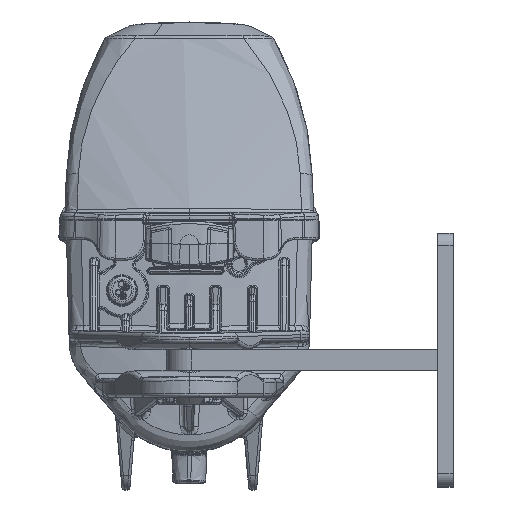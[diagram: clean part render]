
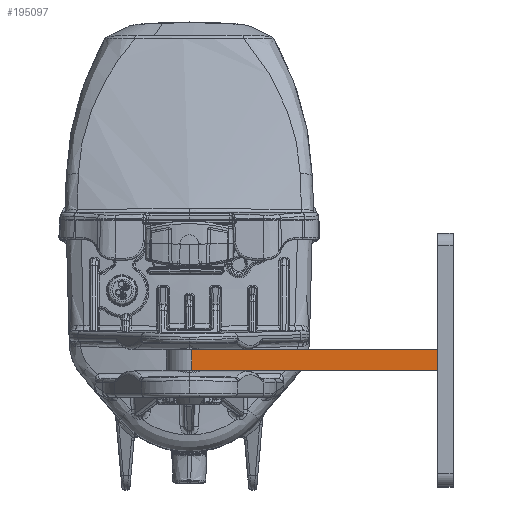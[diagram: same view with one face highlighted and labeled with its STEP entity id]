
A CAD part, top view. The second image highlights one B-rep face of the part: STEP entity #195097.
In plain terms, the highlighted planar face has unit normal (0, 0, 1) as drawn and (1, 0, 0) by its records, which use the part's own axes.
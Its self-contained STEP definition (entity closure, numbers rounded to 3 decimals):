
#4614 = EDGE_CURVE ( 'NONE', #79789, #49676, #37850, .T. ) ;
#5491 = DIRECTION ( 'NONE',  ( -1., 0., 0. ) ) ;
#12067 = CARTESIAN_POINT ( 'NONE',  ( 15., -4., 1. ) ) ;
#13390 = ORIENTED_EDGE ( 'NONE', *, *, #65733, .F. ) ;
#23350 = DIRECTION ( 'NONE',  ( 0., 0., 1. ) ) ;
#25472 = VERTEX_POINT ( 'NONE', #151055 ) ;
#29676 = VERTEX_POINT ( 'NONE', #105181 ) ;
#30802 = ORIENTED_EDGE ( 'NONE', *, *, #4614, .F. ) ;
#30953 = LINE ( 'NONE', #150463, #71756 ) ;
#37850 = LINE ( 'NONE', #69686, #153521 ) ;
#42947 = LINE ( 'NONE', #12067, #140559 ) ;
#49676 = VERTEX_POINT ( 'NONE', #156558 ) ;
#53264 = EDGE_CURVE ( 'NONE', #29676, #25472, #30953, .T. ) ;
#57574 = VECTOR ( 'NONE', #160660, 1000. ) ;
#65733 = EDGE_CURVE ( 'NONE', #25472, #79789, #71019, .T. ) ;
#68033 = EDGE_CURVE ( 'NONE', #49676, #29676, #42947, .T. ) ;
#69686 = CARTESIAN_POINT ( 'NONE',  ( 15., 4., 1. ) ) ;
#69839 = DIRECTION ( 'NONE',  ( 0., -1., 0. ) ) ;
#71019 = LINE ( 'NONE', #113866, #57574 ) ;
#71756 = VECTOR ( 'NONE', #166367, 1000. ) ;
#79789 = VERTEX_POINT ( 'NONE', #119254 ) ;
#98576 = DIRECTION ( 'NONE',  ( 0., 0., -1. ) ) ;
#105181 = CARTESIAN_POINT ( 'NONE',  ( 15., -4., 1. ) ) ;
#113866 = CARTESIAN_POINT ( 'NONE',  ( 15., -4., 103. ) ) ;
#117320 = ORIENTED_EDGE ( 'NONE', *, *, #53264, .F. ) ;
#119254 = CARTESIAN_POINT ( 'NONE',  ( 15., 4., 103. ) ) ;
#140559 = VECTOR ( 'NONE', #69839, 1000. ) ;
#140915 = CARTESIAN_POINT ( 'NONE',  ( 15., -4., 1. ) ) ;
#147479 = AXIS2_PLACEMENT_3D ( 'NONE', #140915, #5491, #23350 ) ;
#150463 = CARTESIAN_POINT ( 'NONE',  ( 15., -4., 103. ) ) ;
#151055 = CARTESIAN_POINT ( 'NONE',  ( 15., -4., 103. ) ) ;
#153521 = VECTOR ( 'NONE', #98576, 1000. ) ;
#155212 = EDGE_LOOP ( 'NONE', ( #117320, #173240, #30802, #13390 ) ) ;
#156558 = CARTESIAN_POINT ( 'NONE',  ( 15., 4., 1. ) ) ;
#156861 = PLANE ( 'NONE',  #147479 ) ;
#158804 = FACE_OUTER_BOUND ( 'NONE', #155212, .T. ) ;
#160660 = DIRECTION ( 'NONE',  ( 0., 1., 0. ) ) ;
#166367 = DIRECTION ( 'NONE',  ( 0., 0., 1. ) ) ;
#173240 = ORIENTED_EDGE ( 'NONE', *, *, #68033, .F. ) ;
#195097 = ADVANCED_FACE ( 'NONE', ( #158804 ), #156861, .F. ) ;
